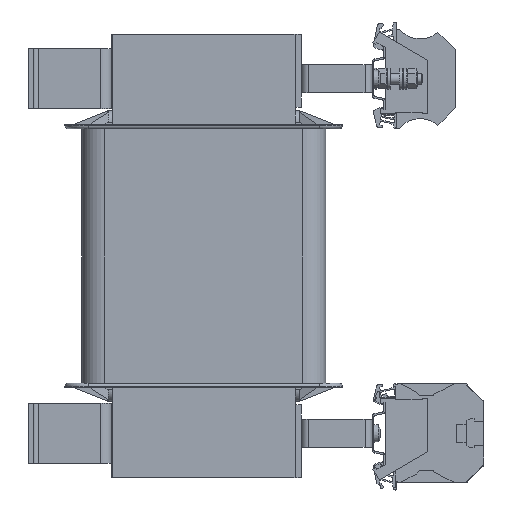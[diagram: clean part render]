
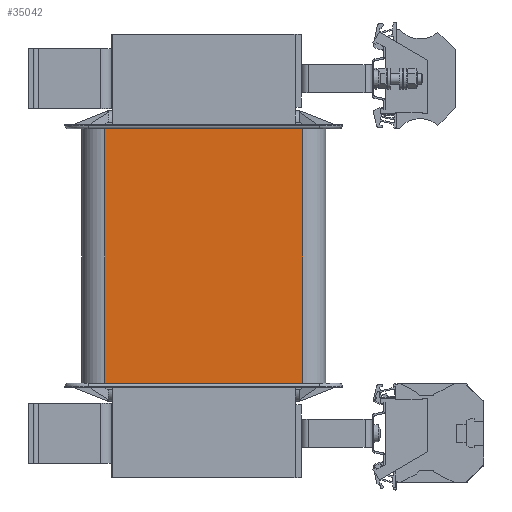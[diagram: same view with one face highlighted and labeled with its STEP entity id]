
A CAD part, left-side view. The second image highlights one B-rep face of the part: STEP entity #35042.
In plain terms, the highlighted planar face has unit normal (-1, 0, 0).
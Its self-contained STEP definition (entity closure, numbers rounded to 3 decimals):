
#2878=FACE_OUTER_BOUND('',#4848,.T.);
#4848=EDGE_LOOP('',(#24491,#24492,#24493,#24494));
#7089=LINE('',#52883,#10961);
#7093=LINE('',#52897,#10965);
#7105=LINE('',#52927,#10977);
#7114=LINE('',#52945,#10986);
#10961=VECTOR('',#41434,10.);
#10965=VECTOR('',#41446,10.);
#10977=VECTOR('',#41474,10.);
#10986=VECTOR('',#41493,10.);
#14803=VERTEX_POINT('',#52876);
#14806=VERTEX_POINT('',#52881);
#14812=VERTEX_POINT('',#52895);
#14822=VERTEX_POINT('',#52925);
#18471=EDGE_CURVE('',#14806,#14803,#7089,.T.);
#18478=EDGE_CURVE('',#14806,#14812,#7093,.T.);
#18493=EDGE_CURVE('',#14822,#14812,#7105,.T.);
#18502=EDGE_CURVE('',#14822,#14803,#7114,.T.);
#24491=ORIENTED_EDGE('',*,*,#18471,.F.);
#24492=ORIENTED_EDGE('',*,*,#18478,.T.);
#24493=ORIENTED_EDGE('',*,*,#18493,.F.);
#24494=ORIENTED_EDGE('',*,*,#18502,.T.);
#33688=PLANE('',#37590);
#35042=ADVANCED_FACE('',(#2878),#33688,.T.);
#37590=AXIS2_PLACEMENT_3D('',#52944,#41491,#41492);
#41434=DIRECTION('',(0.,0.,1.));
#41446=DIRECTION('',(0.,-1.,0.));
#41474=DIRECTION('',(0.,0.,-1.));
#41491=DIRECTION('center_axis',(-1.,0.,0.));
#41492=DIRECTION('ref_axis',(0.,0.,1.));
#41493=DIRECTION('',(0.,1.,0.));
#52876=CARTESIAN_POINT('',(-43.55,55.8,71.7));
#52881=CARTESIAN_POINT('',(-43.55,55.8,-71.7));
#52883=CARTESIAN_POINT('',(-43.55,55.8,0.));
#52895=CARTESIAN_POINT('',(-43.55,-55.8,-71.7));
#52897=CARTESIAN_POINT('',(-43.55,68.8,-71.7));
#52925=CARTESIAN_POINT('',(-43.55,-55.8,71.7));
#52927=CARTESIAN_POINT('',(-43.55,-55.8,0.));
#52944=CARTESIAN_POINT('Origin',(-43.55,-68.8,0.));
#52945=CARTESIAN_POINT('',(-43.55,68.8,71.7));
